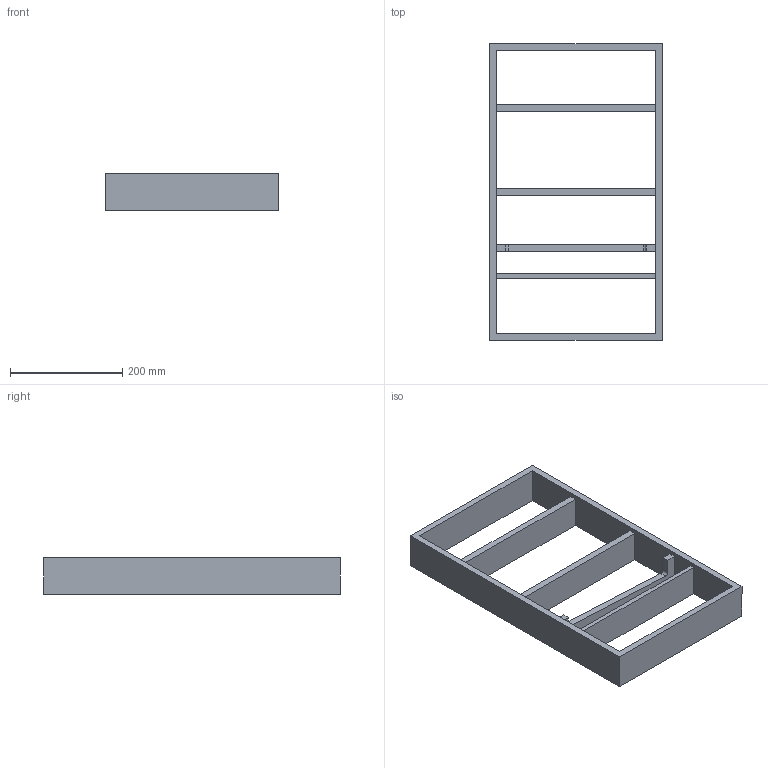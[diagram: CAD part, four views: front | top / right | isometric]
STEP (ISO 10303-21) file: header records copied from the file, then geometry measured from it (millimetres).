
FILE_DESCRIPTION (( 'STEP AP214' ), '1' );
FILE_NAME ('Vario Messer_Modul_H65_NL550_B400_16mm_Alu_Buche.step', '2010-10-07T06:11:49', ( 'grass' ), ( '' ), 'SwSTEP 2.0', 'SolidWorks 2010', '' );
FILE_SCHEMA (( 'AUTOMOTIVE_DESIGN' ));
Length unit declared in the file: millimetre
Products named in the file (1): Vario Messer_Modul_H65_NL550_B400_16mm_Alu_Buche
Bounding box: 308 x 529 x 65 mm (x, y, z)
Volume: 1902681.5 mm3; surface area: 387481.2 mm2
Topology: 1 solids, 1 shells, 28 faces, 90 edges, 60 vertices
Faces by surface type: plane 26, cylinder 2
Entity records: 1032 total; most frequent: ORIENTED_EDGE 180, CARTESIAN_POINT 179, DIRECTION 152, EDGE_CURVE 90, VECTOR 86, LINE 86, VERTEX_POINT 60, EDGE_LOOP 34
